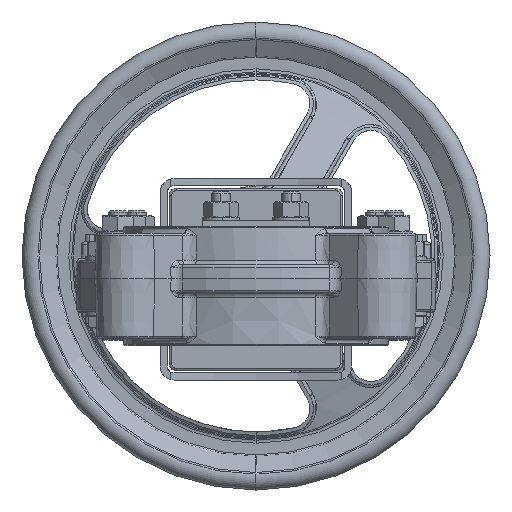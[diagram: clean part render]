
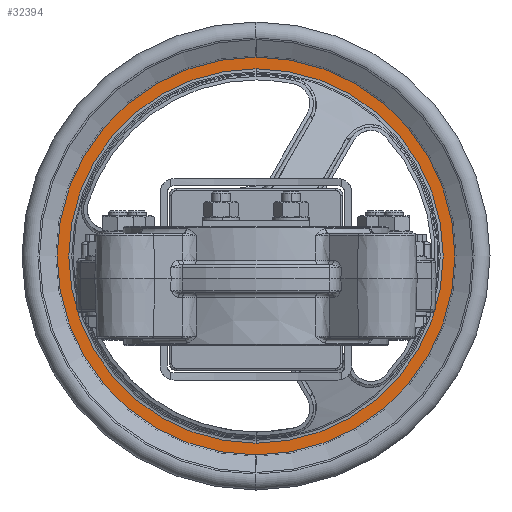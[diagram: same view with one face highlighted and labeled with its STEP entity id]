
A CAD part, front view. The second image highlights one B-rep face of the part: STEP entity #32394.
In plain terms, the highlighted planar face has unit normal (0, -1, 0).
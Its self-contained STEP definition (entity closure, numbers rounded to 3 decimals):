
#302 = EDGE_CURVE ( 'NONE', #87719, #60063, #11751, .T. ) ;
#747 = DIRECTION ( 'NONE',  ( 0., 0., -1. ) ) ;
#2080 = ORIENTED_EDGE ( 'NONE', *, *, #302, .T. ) ;
#3754 = AXIS2_PLACEMENT_3D ( 'NONE', #88470, #44587, #747 ) ;
#6520 = DIRECTION ( 'NONE',  ( 0., 0., -1. ) ) ;
#7038 = DIRECTION ( 'NONE',  ( 0., 0., -1. ) ) ;
#9121 = VERTEX_POINT ( 'NONE', #48830 ) ;
#11251 = EDGE_CURVE ( 'NONE', #9121, #44350, #58327, .T. ) ;
#11486 = FACE_OUTER_BOUND ( 'NONE', #47519, .T. ) ;
#11751 = CIRCLE ( 'NONE', #24281, 80. ) ;
#11755 = EDGE_CURVE ( 'NONE', #60063, #87719, #31877, .T. ) ;
#11919 = DIRECTION ( 'NONE',  ( 0., 1., 0. ) ) ;
#12551 = AXIS2_PLACEMENT_3D ( 'NONE', #94303, #50294, #6520 ) ;
#19566 = EDGE_CURVE ( 'NONE', #44350, #9121, #82454, .T. ) ;
#22450 = ORIENTED_EDGE ( 'NONE', *, *, #11755, .T. ) ;
#24281 = AXIS2_PLACEMENT_3D ( 'NONE', #55695, #11919, #63011 ) ;
#30935 = FACE_BOUND ( 'NONE', #68640, .T. ) ;
#31403 = ORIENTED_EDGE ( 'NONE', *, *, #19566, .F. ) ;
#31877 = CIRCLE ( 'NONE', #80635, 80. ) ;
#32394 = ADVANCED_FACE ( 'NONE', ( #30935, #11486 ), #90697, .T. ) ;
#37237 = CARTESIAN_POINT ( 'NONE',  ( 0., 356., 94.75 ) ) ;
#39736 = CARTESIAN_POINT ( 'NONE',  ( 80., 356., 9.75 ) ) ;
#44350 = VERTEX_POINT ( 'NONE', #37237 ) ;
#44587 = DIRECTION ( 'NONE',  ( 0., 1., 0. ) ) ;
#47119 = DIRECTION ( 'NONE',  ( 0., 0., 1. ) ) ;
#47519 = EDGE_LOOP ( 'NONE', ( #64289, #31403 ) ) ;
#48830 = CARTESIAN_POINT ( 'NONE',  ( 0., 356., -75.25 ) ) ;
#50294 = DIRECTION ( 'NONE',  ( 0., 1., 0. ) ) ;
#50803 = DIRECTION ( 'NONE',  ( 0., 1., 0. ) ) ;
#55695 = CARTESIAN_POINT ( 'NONE',  ( 0., 356., 9.75 ) ) ;
#58327 = CIRCLE ( 'NONE', #12551, 85. ) ;
#60063 = VERTEX_POINT ( 'NONE', #91390 ) ;
#63011 = DIRECTION ( 'NONE',  ( 0., 0., -1. ) ) ;
#64289 = ORIENTED_EDGE ( 'NONE', *, *, #11251, .F. ) ;
#68640 = EDGE_LOOP ( 'NONE', ( #2080, #22450 ) ) ;
#80635 = AXIS2_PLACEMENT_3D ( 'NONE', #94821, #50803, #7038 ) ;
#80845 = CARTESIAN_POINT ( 'NONE',  ( 0., 356., -70.25 ) ) ;
#81429 = AXIS2_PLACEMENT_3D ( 'NONE', #39736, #91003, #47119 ) ;
#82454 = CIRCLE ( 'NONE', #3754, 85. ) ;
#87719 = VERTEX_POINT ( 'NONE', #80845 ) ;
#88470 = CARTESIAN_POINT ( 'NONE',  ( 0., 356., 9.75 ) ) ;
#90697 = PLANE ( 'NONE',  #81429 ) ;
#91003 = DIRECTION ( 'NONE',  ( 0., -1., 0. ) ) ;
#91390 = CARTESIAN_POINT ( 'NONE',  ( 0., 356., 89.75 ) ) ;
#94303 = CARTESIAN_POINT ( 'NONE',  ( 0., 356., 9.75 ) ) ;
#94821 = CARTESIAN_POINT ( 'NONE',  ( 0., 356., 9.75 ) ) ;
